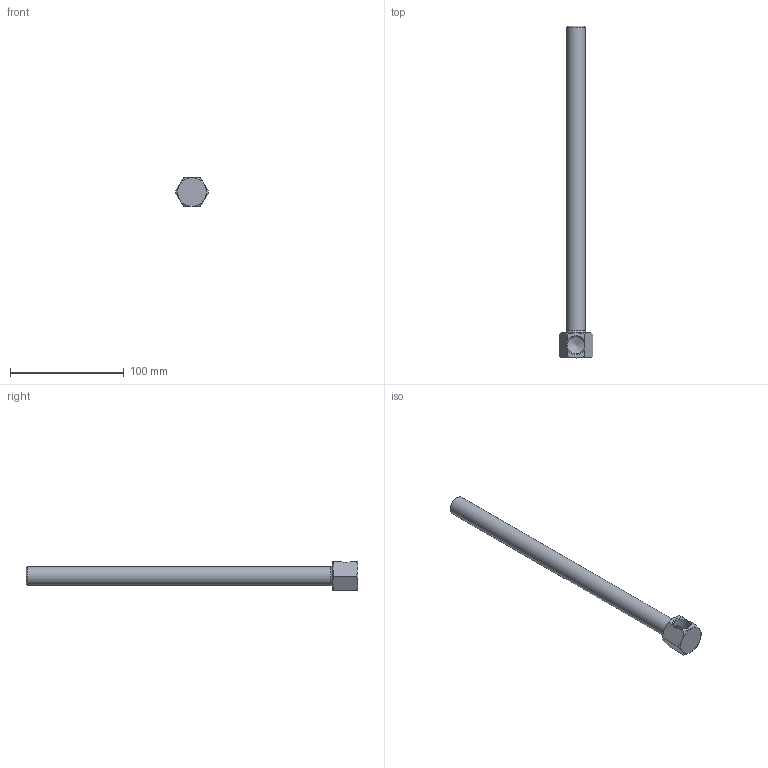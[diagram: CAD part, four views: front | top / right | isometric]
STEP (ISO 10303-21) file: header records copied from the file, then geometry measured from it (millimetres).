
FILE_DESCRIPTION(/* description */ (''),/* implementation_level */ '2;1');
FILE_NAME(/* name */ 'C:/Users/drich/Desktop/38B-11-1_2 v1.step',/* time_stamp */ '2019-12-29T15:24:12-06:00',/* author */ (''),/* organization */ (''),/* preprocessor_version */ 'ST-DEVELOPER v18',/* originating_system */ 'Autodesk Translation Framework v8.12.0.6',/* authorisation */ '');
FILE_SCHEMA (('AUTOMOTIVE_DESIGN { 1 0 10303 214 3 1 1 }'));
Length unit declared in the file: inch
Products named in the file (1): 38B-11-1_2
Bounding box: 29.33 x 292.1 x 25.4 mm (x, y, z)
Volume: 36278.8 mm3; surface area: 27868.6 mm2
Topology: 1 solids, 1 shells, 20 faces, 53 edges, 35 vertices
Faces by surface type: plane 10, cone 6, cylinder 3, torus 1
Full cylindrical faces by diameter (mm): 11.887 x1, 15.173 x1, 16.537 x1
Entity records: 687 total; most frequent: CARTESIAN_POINT 184, ORIENTED_EDGE 104, DIRECTION 91, EDGE_CURVE 52, AXIS2_PLACEMENT_3D 37, VERTEX_POINT 35, EDGE_LOOP 23, FACE_OUTER_BOUND 20
